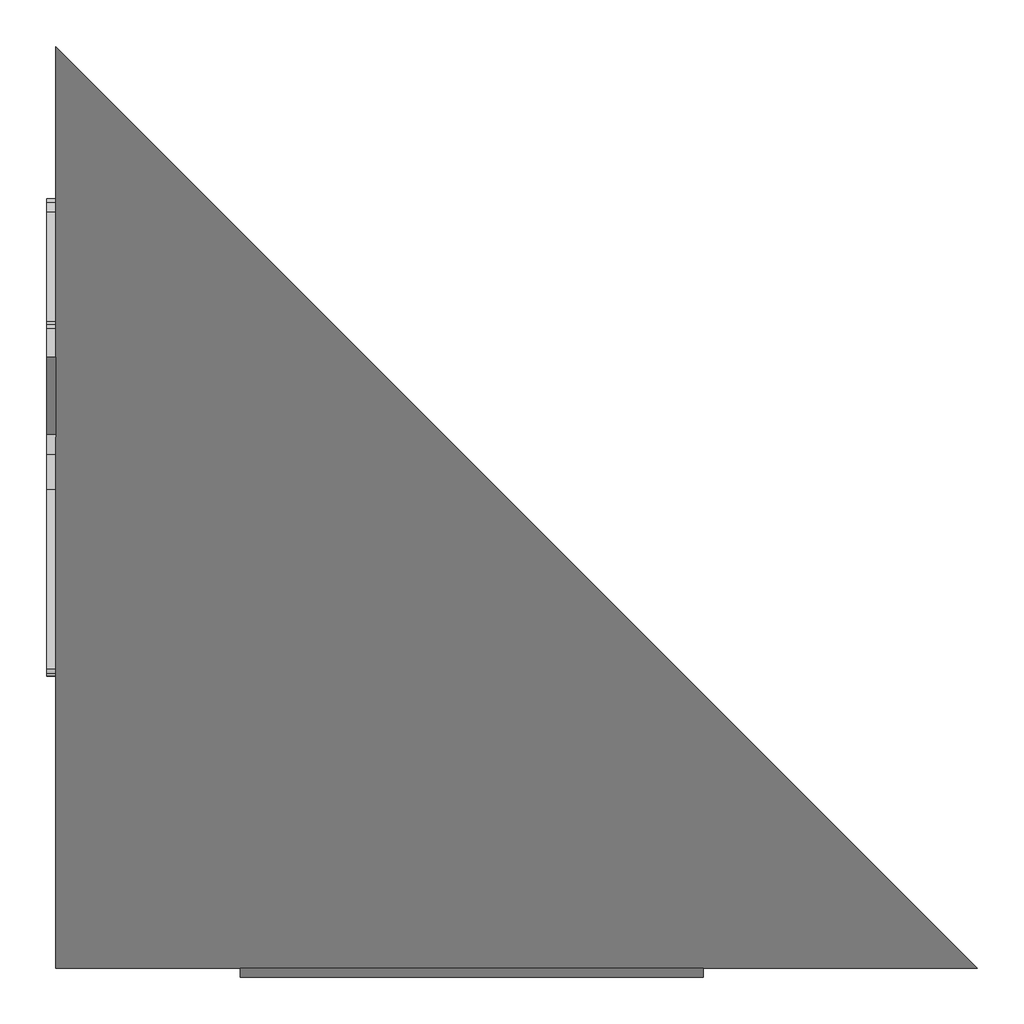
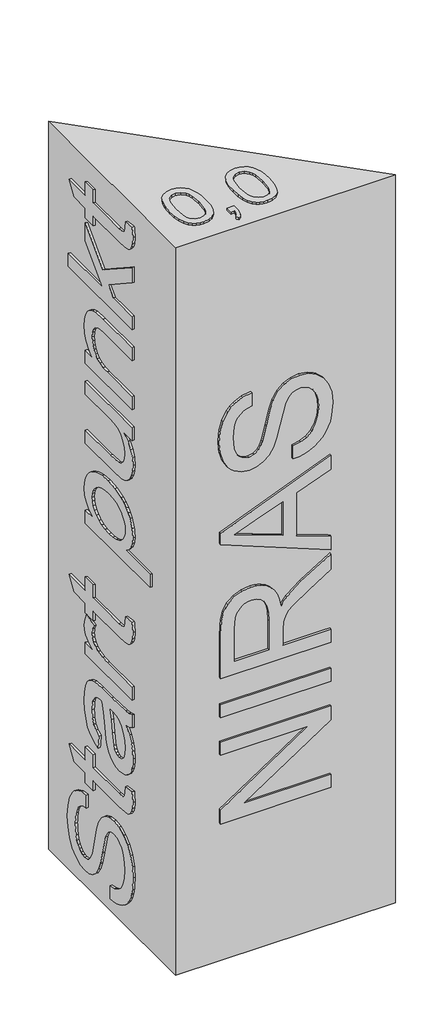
# One storey: 1 proxy.
"""IFC4 building model written with IfcOpenShell, lengths in millimetres."""

from ifc_helpers import new_model, si_unit, origin, place, context, project, spatial, transform, mapped, element, save
from components import generic_models_2862df2c

model = new_model("IFC4")

# Units and contexts
model_context = context("Model", 3, world=origin())
ifc_project = project(units=[si_unit("LENGTHUNIT", "METRE", prefix="MILLI")], contexts=[model_context])

# Site, building, storey
site = spatial("IfcSite", under=ifc_project)
building = spatial("IfcBuilding", under=site)
storey = spatial("IfcBuildingStorey", under=building, Name="Skal slettes", Elevation=0.0)

# Proxy
placement = place(None, origin())
generic_models_shape = generic_models_2862df2c(model_context)
element("IfcBuildingElementProxy", 1, Name="Start_objekt_N : Start_objekt_N", ObjectType="Start_objekt_N : Start_objekt_N", at=placement, inside=storey, context=model_context, shape_type="MappedRepresentation", body=[
    mapped(generic_models_shape, transform((-40.0, -40.0, 0.0), x_axis=(1.0, 0.0, 0.0), y_axis=(0.0, 1.0, 0.0), z_axis=(0.0, 0.0, 1.0))),
])

save(model, "model.ifc")
